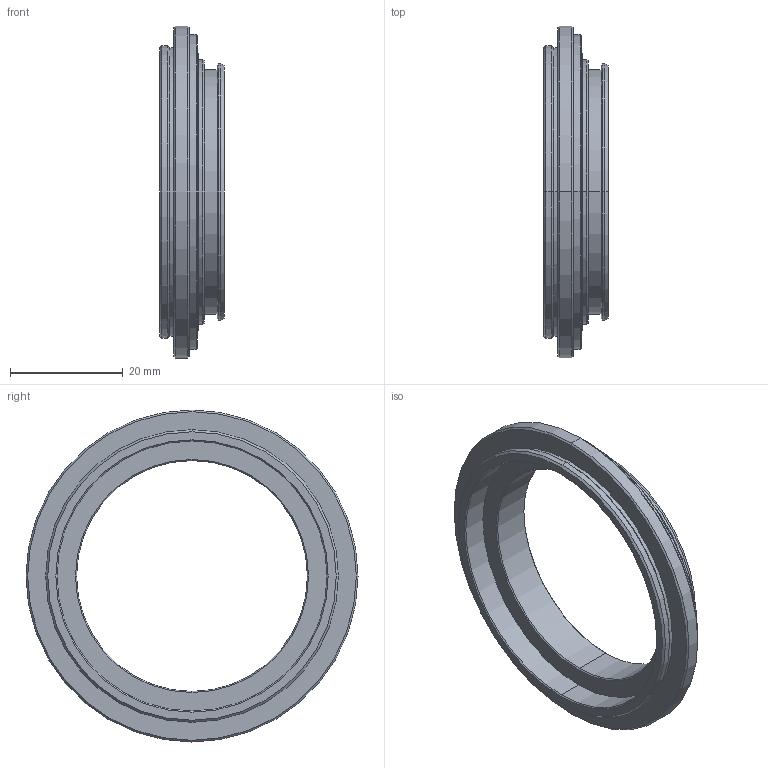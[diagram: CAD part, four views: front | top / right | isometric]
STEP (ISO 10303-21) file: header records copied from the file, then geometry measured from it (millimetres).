
FILE_DESCRIPTION (( 'STEP AP203' ), '1' );
FILE_NAME ('VS-EXR4.4_F.STEP', '2016-06-08T08:14:35', ( 'miura_vst' ), ( '' ), 'SwSTEP 2.0', 'SolidWorks 2016', '' );
FILE_SCHEMA (( 'CONFIG_CONTROL_DESIGN' ));
Length unit declared in the file: millimetre
Products named in the file (1): VS-EXR4.4_F
Bounding box: 11.5 x 59 x 59 mm (x, y, z)
Volume: 6567.2 mm3; surface area: 6368.5 mm2
Topology: 1 solids, 1 shells, 51 faces, 102 edges, 60 vertices
Faces by surface type: cone 24, cylinder 18, plane 9
Entity records: 1405 total; most frequent: DIRECTION 266, CARTESIAN_POINT 214, ORIENTED_EDGE 204, AXIS2_PLACEMENT_3D 112, EDGE_CURVE 102, EDGE_LOOP 60, VERTEX_POINT 60, CIRCLE 60
